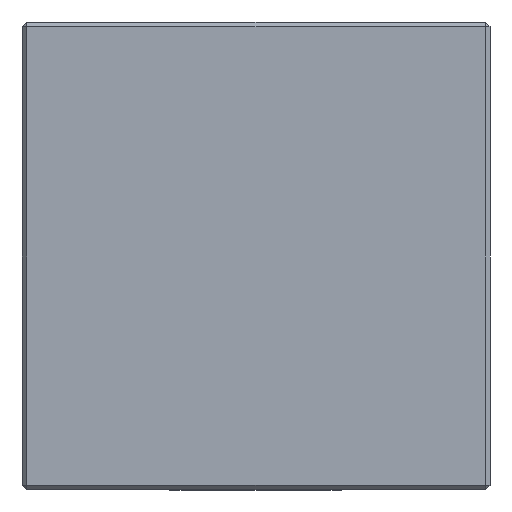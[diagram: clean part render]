
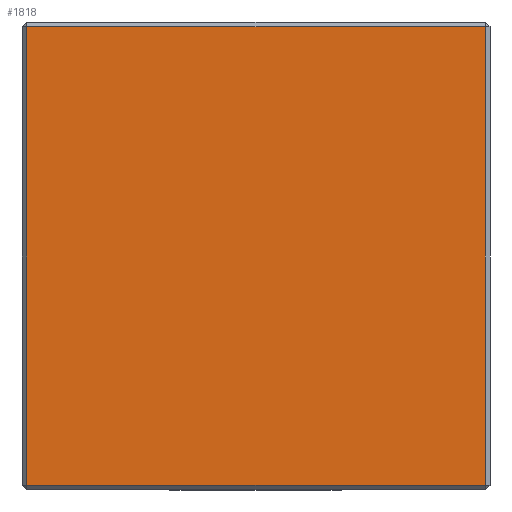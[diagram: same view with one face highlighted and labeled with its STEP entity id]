
A CAD part, left-side view. The second image highlights one B-rep face of the part: STEP entity #1818.
In plain terms, the highlighted planar face has unit normal (-1, 0, 0).
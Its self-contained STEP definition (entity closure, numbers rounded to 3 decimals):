
#15 = LINE ( 'NONE', #358, #315 ) ;
#22 = CARTESIAN_POINT ( 'NONE',  ( -7.5, 14.7, -15. ) ) ;
#132 = VERTEX_POINT ( 'NONE', #2102 ) ;
#186 = LINE ( 'NONE', #22, #1886 ) ;
#248 = CARTESIAN_POINT ( 'NONE',  ( -7.5, 14.7, 14.7 ) ) ;
#315 = VECTOR ( 'NONE', #849, 1000. ) ;
#358 = CARTESIAN_POINT ( 'NONE',  ( -7.5, -14.7, 0. ) ) ;
#359 = VERTEX_POINT ( 'NONE', #248 ) ;
#370 = VERTEX_POINT ( 'NONE', #1705 ) ;
#387 = LINE ( 'NONE', #2072, #425 ) ;
#425 = VECTOR ( 'NONE', #562, 1000. ) ;
#428 = ORIENTED_EDGE ( 'NONE', *, *, #2008, .T. ) ;
#562 = DIRECTION ( 'NONE',  ( 0., -1., 0. ) ) ;
#601 = FACE_OUTER_BOUND ( 'NONE', #1074, .T. ) ;
#638 = DIRECTION ( 'NONE',  ( 1., 0., 0. ) ) ;
#682 = EDGE_CURVE ( 'NONE', #370, #1402, #387, .T. ) ;
#721 = DIRECTION ( 'NONE',  ( 0., 0., -1. ) ) ;
#779 = ORIENTED_EDGE ( 'NONE', *, *, #682, .T. ) ;
#849 = DIRECTION ( 'NONE',  ( 0., 0., 1. ) ) ;
#998 = DIRECTION ( 'NONE',  ( 0., 0., -1. ) ) ;
#1074 = EDGE_LOOP ( 'NONE', ( #1666, #428, #1876, #779 ) ) ;
#1240 = VECTOR ( 'NONE', #1345, 1000. ) ;
#1270 = PLANE ( 'NONE',  #1439 ) ;
#1345 = DIRECTION ( 'NONE',  ( 0., 1., 0. ) ) ;
#1399 = CARTESIAN_POINT ( 'NONE',  ( -7.5, 0., 14.7 ) ) ;
#1402 = VERTEX_POINT ( 'NONE', #1836 ) ;
#1439 = AXIS2_PLACEMENT_3D ( 'NONE', #1798, #638, #998 ) ;
#1562 = EDGE_CURVE ( 'NONE', #359, #370, #186, .T. ) ;
#1666 = ORIENTED_EDGE ( 'NONE', *, *, #1819, .T. ) ;
#1705 = CARTESIAN_POINT ( 'NONE',  ( -7.5, 14.7, -14.7 ) ) ;
#1709 = LINE ( 'NONE', #1399, #1240 ) ;
#1798 = CARTESIAN_POINT ( 'NONE',  ( -7.5, 0., 0. ) ) ;
#1818 = ADVANCED_FACE ( 'NONE', ( #601 ), #1270, .F. ) ;
#1819 = EDGE_CURVE ( 'NONE', #1402, #132, #15, .T. ) ;
#1836 = CARTESIAN_POINT ( 'NONE',  ( -7.5, -14.7, -14.7 ) ) ;
#1876 = ORIENTED_EDGE ( 'NONE', *, *, #1562, .T. ) ;
#1886 = VECTOR ( 'NONE', #721, 1000. ) ;
#2008 = EDGE_CURVE ( 'NONE', #132, #359, #1709, .T. ) ;
#2072 = CARTESIAN_POINT ( 'NONE',  ( -7.5, -15., -14.7 ) ) ;
#2102 = CARTESIAN_POINT ( 'NONE',  ( -7.5, -14.7, 14.7 ) ) ;
